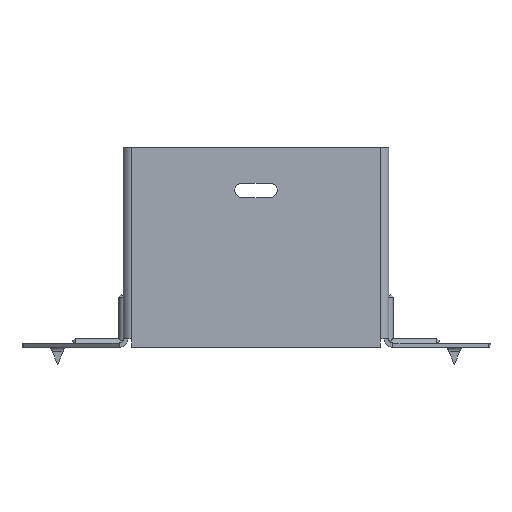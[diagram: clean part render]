
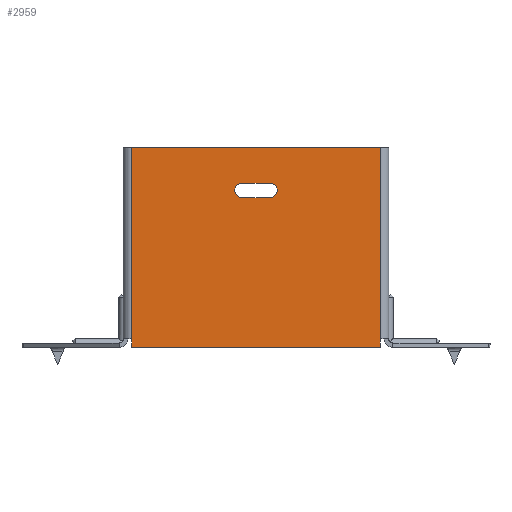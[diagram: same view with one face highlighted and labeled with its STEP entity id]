
A CAD part, front view. The second image highlights one B-rep face of the part: STEP entity #2959.
In plain terms, the highlighted planar face has unit normal (0, -1, 0).
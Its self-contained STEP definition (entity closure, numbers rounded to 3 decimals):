
#574 = VECTOR ( 'NONE', #9234, 1000. ) ;
#1223 = DIRECTION ( 'NONE',  ( 0., 1., 0. ) ) ;
#1705 = VECTOR ( 'NONE', #10193, 1000. ) ;
#1928 = CARTESIAN_POINT ( 'NONE',  ( -43.5, 0., 0. ) ) ;
#1950 = CARTESIAN_POINT ( 'NONE',  ( -43.5, 0., -67. ) ) ;
#2135 = VECTOR ( 'NONE', #14276, 1000. ) ;
#2172 = CARTESIAN_POINT ( 'NONE',  ( -43.5, 0., 0. ) ) ;
#2658 = EDGE_CURVE ( 'NONE', #5171, #9698, #9886, .T. ) ;
#2677 = CARTESIAN_POINT ( 'NONE',  ( -5., 0., -15. ) ) ;
#2771 = CARTESIAN_POINT ( 'NONE',  ( 43.5, 0., -70. ) ) ;
#2825 = ORIENTED_EDGE ( 'NONE', *, *, #7118, .F. ) ;
#2959 = ADVANCED_FACE ( 'NONE', ( #10368, #13474 ), #9801, .F. ) ;
#3186 = EDGE_LOOP ( 'NONE', ( #5876, #3307, #10951, #9530, #6041, #2825 ) ) ;
#3243 = LINE ( 'NONE', #10004, #11862 ) ;
#3307 = ORIENTED_EDGE ( 'NONE', *, *, #15566, .T. ) ;
#3336 = VECTOR ( 'NONE', #12166, 1000. ) ;
#3366 = VERTEX_POINT ( 'NONE', #5878 ) ;
#3717 = DIRECTION ( 'NONE',  ( 1., 0., 0. ) ) ;
#3768 = VERTEX_POINT ( 'NONE', #2172 ) ;
#3797 = VERTEX_POINT ( 'NONE', #1950 ) ;
#3868 = EDGE_CURVE ( 'NONE', #9882, #5171, #5986, .T. ) ;
#3961 = EDGE_CURVE ( 'NONE', #12818, #12466, #13876, .T. ) ;
#4223 = AXIS2_PLACEMENT_3D ( 'NONE', #7342, #11228, #8585 ) ;
#4925 = CARTESIAN_POINT ( 'NONE',  ( 43.5, 0., 0. ) ) ;
#5171 = VERTEX_POINT ( 'NONE', #12099 ) ;
#5876 = ORIENTED_EDGE ( 'NONE', *, *, #11997, .T. ) ;
#5878 = CARTESIAN_POINT ( 'NONE',  ( -5., 0., -12.5 ) ) ;
#5986 = LINE ( 'NONE', #9574, #3336 ) ;
#6041 = ORIENTED_EDGE ( 'NONE', *, *, #2658, .T. ) ;
#6154 = DIRECTION ( 'NONE',  ( 0., 0., 1. ) ) ;
#6312 = LINE ( 'NONE', #11812, #8253 ) ;
#6558 = ORIENTED_EDGE ( 'NONE', *, *, #11336, .T. ) ;
#6629 = CARTESIAN_POINT ( 'NONE',  ( -43.5, 0., 0. ) ) ;
#6767 = DIRECTION ( 'NONE',  ( -1., 0., 0. ) ) ;
#7118 = EDGE_CURVE ( 'NONE', #3768, #9698, #15508, .T. ) ;
#7340 = ORIENTED_EDGE ( 'NONE', *, *, #12344, .T. ) ;
#7342 = CARTESIAN_POINT ( 'NONE',  ( 5., 0., -15. ) ) ;
#7797 = CARTESIAN_POINT ( 'NONE',  ( 5., 0., -17.5 ) ) ;
#8253 = VECTOR ( 'NONE', #15549, 1000. ) ;
#8585 = DIRECTION ( 'NONE',  ( 0., 0., 1. ) ) ;
#8597 = CIRCLE ( 'NONE', #13271, 2.5 ) ;
#8610 = VERTEX_POINT ( 'NONE', #14739 ) ;
#9196 = VECTOR ( 'NONE', #6767, 1000. ) ;
#9234 = DIRECTION ( 'NONE',  ( 0., 0., -1. ) ) ;
#9309 = EDGE_LOOP ( 'NONE', ( #10092, #6558, #7340, #9866 ) ) ;
#9346 = DIRECTION ( 'NONE',  ( 1., 0., 0. ) ) ;
#9530 = ORIENTED_EDGE ( 'NONE', *, *, #3868, .T. ) ;
#9553 = LINE ( 'NONE', #6629, #574 ) ;
#9574 = CARTESIAN_POINT ( 'NONE',  ( 43.5, 0., -70. ) ) ;
#9698 = VERTEX_POINT ( 'NONE', #4925 ) ;
#9801 = PLANE ( 'NONE',  #15868 ) ;
#9861 = VECTOR ( 'NONE', #9346, 1000. ) ;
#9866 = ORIENTED_EDGE ( 'NONE', *, *, #3961, .T. ) ;
#9882 = VERTEX_POINT ( 'NONE', #15631 ) ;
#9886 = LINE ( 'NONE', #2771, #1705 ) ;
#10004 = CARTESIAN_POINT ( 'NONE',  ( -5., 0., -12.5 ) ) ;
#10092 = ORIENTED_EDGE ( 'NONE', *, *, #10521, .T. ) ;
#10193 = DIRECTION ( 'NONE',  ( 0., 0., 1. ) ) ;
#10368 = FACE_BOUND ( 'NONE', #9309, .T. ) ;
#10392 = CARTESIAN_POINT ( 'NONE',  ( -43.5, 0., -70. ) ) ;
#10521 = EDGE_CURVE ( 'NONE', #12466, #8610, #6312, .T. ) ;
#10951 = ORIENTED_EDGE ( 'NONE', *, *, #10977, .F. ) ;
#10977 = EDGE_CURVE ( 'NONE', #9882, #13004, #15001, .T. ) ;
#11228 = DIRECTION ( 'NONE',  ( 0., 1., 0. ) ) ;
#11336 = EDGE_CURVE ( 'NONE', #8610, #3366, #8597, .T. ) ;
#11812 = CARTESIAN_POINT ( 'NONE',  ( -5., 0., -17.5 ) ) ;
#11862 = VECTOR ( 'NONE', #3717, 1000. ) ;
#11997 = EDGE_CURVE ( 'NONE', #3768, #3797, #9553, .T. ) ;
#12097 = LINE ( 'NONE', #1928, #2135 ) ;
#12099 = CARTESIAN_POINT ( 'NONE',  ( 43.5, 0., -67. ) ) ;
#12126 = CARTESIAN_POINT ( 'NONE',  ( 5., 0., -12.5 ) ) ;
#12166 = DIRECTION ( 'NONE',  ( 0., 0., 1. ) ) ;
#12344 = EDGE_CURVE ( 'NONE', #3366, #12818, #3243, .T. ) ;
#12466 = VERTEX_POINT ( 'NONE', #7797 ) ;
#12818 = VERTEX_POINT ( 'NONE', #12126 ) ;
#13004 = VERTEX_POINT ( 'NONE', #10392 ) ;
#13271 = AXIS2_PLACEMENT_3D ( 'NONE', #2677, #15046, #13476 ) ;
#13474 = FACE_OUTER_BOUND ( 'NONE', #3186, .T. ) ;
#13476 = DIRECTION ( 'NONE',  ( 0., 0., 1. ) ) ;
#13876 = CIRCLE ( 'NONE', #4223, 2.5 ) ;
#14276 = DIRECTION ( 'NONE',  ( 0., 0., -1. ) ) ;
#14686 = CARTESIAN_POINT ( 'NONE',  ( 0., 0., 0. ) ) ;
#14739 = CARTESIAN_POINT ( 'NONE',  ( -5., 0., -17.5 ) ) ;
#15001 = LINE ( 'NONE', #15482, #9196 ) ;
#15046 = DIRECTION ( 'NONE',  ( 0., 1., 0. ) ) ;
#15482 = CARTESIAN_POINT ( 'NONE',  ( -45., 0., -70. ) ) ;
#15508 = LINE ( 'NONE', #15633, #9861 ) ;
#15549 = DIRECTION ( 'NONE',  ( -1., 0., 0. ) ) ;
#15566 = EDGE_CURVE ( 'NONE', #3797, #13004, #12097, .T. ) ;
#15631 = CARTESIAN_POINT ( 'NONE',  ( 43.5, 0., -70. ) ) ;
#15633 = CARTESIAN_POINT ( 'NONE',  ( -45., 0., 0. ) ) ;
#15868 = AXIS2_PLACEMENT_3D ( 'NONE', #14686, #1223, #6154 ) ;
